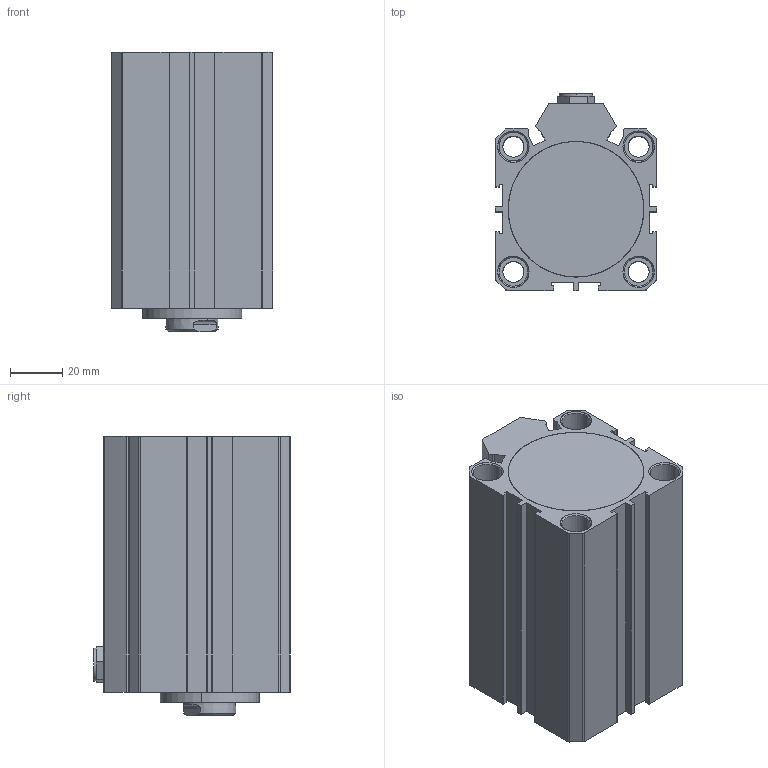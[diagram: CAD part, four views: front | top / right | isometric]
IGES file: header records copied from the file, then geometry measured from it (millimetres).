
Start section: SolidWorks IGES file using analytic representation for surfaces
Global section: file name: D:\ARICA 3D ÇÝZÝMLER\3D IGES\SSA-S\SSA-S 50\SSA-S-50X40-CYLINDER.IGS; native system: SolidWorks 2013; preprocessor: SolidWorks 2013; author: user; date: 151022.111307; units: millimetre
Bounding box: 62 x 75.5 x 107 mm (x, y, z)
Surface area: 101385.2 mm2 (no closed solid volume)
Topology: 0 solids, 0 shells, 278 faces, 4652 edges, 4652 vertices
Faces by surface type: revolution 157, bspline 121
